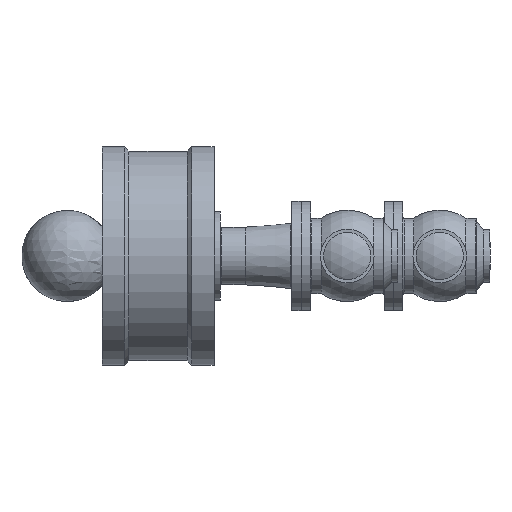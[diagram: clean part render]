
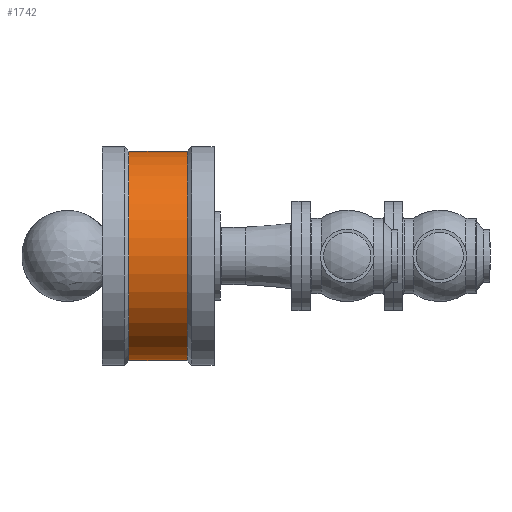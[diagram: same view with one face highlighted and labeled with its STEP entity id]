
A CAD part, left-side view. The second image highlights one B-rep face of the part: STEP entity #1742.
In plain terms, the highlighted cylindrical face has radius 167 mm (diameter 334 mm), a full revolution.
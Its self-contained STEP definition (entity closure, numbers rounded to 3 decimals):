
#264=FACE_OUTER_BOUND('',#367,.T.);
#367=EDGE_LOOP('',(#1274,#1275,#1276,#1277,#1278,#1279));
#474=LINE('',#3125,#517);
#517=VECTOR('',#2442,167.);
#588=CIRCLE('',#2035,167.);
#589=CIRCLE('',#2036,167.);
#590=CIRCLE('',#2038,167.);
#591=CIRCLE('',#2039,167.);
#783=VERTEX_POINT('',#3115);
#784=VERTEX_POINT('',#3116);
#785=VERTEX_POINT('',#3121);
#786=VERTEX_POINT('',#3122);
#979=EDGE_CURVE('',#783,#784,#588,.T.);
#980=EDGE_CURVE('',#784,#783,#589,.T.);
#982=EDGE_CURVE('',#785,#786,#590,.T.);
#983=EDGE_CURVE('',#786,#785,#591,.T.);
#984=EDGE_CURVE('',#786,#784,#474,.T.);
#1274=ORIENTED_EDGE('',*,*,#982,.F.);
#1275=ORIENTED_EDGE('',*,*,#983,.F.);
#1276=ORIENTED_EDGE('',*,*,#984,.T.);
#1277=ORIENTED_EDGE('',*,*,#980,.T.);
#1278=ORIENTED_EDGE('',*,*,#979,.T.);
#1279=ORIENTED_EDGE('',*,*,#984,.F.);
#1692=CYLINDRICAL_SURFACE('',#2037,167.);
#1742=ADVANCED_FACE('',(#264),#1692,.T.);
#2035=AXIS2_PLACEMENT_3D('',#3117,#2431,#2432);
#2036=AXIS2_PLACEMENT_3D('',#3118,#2433,#2434);
#2037=AXIS2_PLACEMENT_3D('',#3120,#2436,#2437);
#2038=AXIS2_PLACEMENT_3D('',#3123,#2438,#2439);
#2039=AXIS2_PLACEMENT_3D('',#3124,#2440,#2441);
#2431=DIRECTION('center_axis',(-1.,0.,0.));
#2432=DIRECTION('ref_axis',(0.,0.,1.));
#2433=DIRECTION('center_axis',(-1.,0.,0.));
#2434=DIRECTION('ref_axis',(0.,0.,1.));
#2436=DIRECTION('center_axis',(-1.,0.,0.));
#2437=DIRECTION('ref_axis',(0.,0.,1.));
#2438=DIRECTION('center_axis',(-1.,0.,0.));
#2439=DIRECTION('ref_axis',(0.,0.,1.));
#2440=DIRECTION('center_axis',(-1.,0.,0.));
#2441=DIRECTION('ref_axis',(0.,0.,1.));
#2442=DIRECTION('',(1.,0.,0.));
#3115=CARTESIAN_POINT('',(-45.5,0.,167.));
#3116=CARTESIAN_POINT('',(-45.5,0.,-167.));
#3117=CARTESIAN_POINT('Origin',(-45.5,0.,0.));
#3118=CARTESIAN_POINT('Origin',(-45.5,0.,0.));
#3120=CARTESIAN_POINT('Origin',(-92.,0.,0.));
#3121=CARTESIAN_POINT('',(-138.5,0.,167.));
#3122=CARTESIAN_POINT('',(-138.5,0.,-167.));
#3123=CARTESIAN_POINT('Origin',(-138.5,0.,0.));
#3124=CARTESIAN_POINT('Origin',(-138.5,0.,0.));
#3125=CARTESIAN_POINT('',(-92.,0.,-167.));
